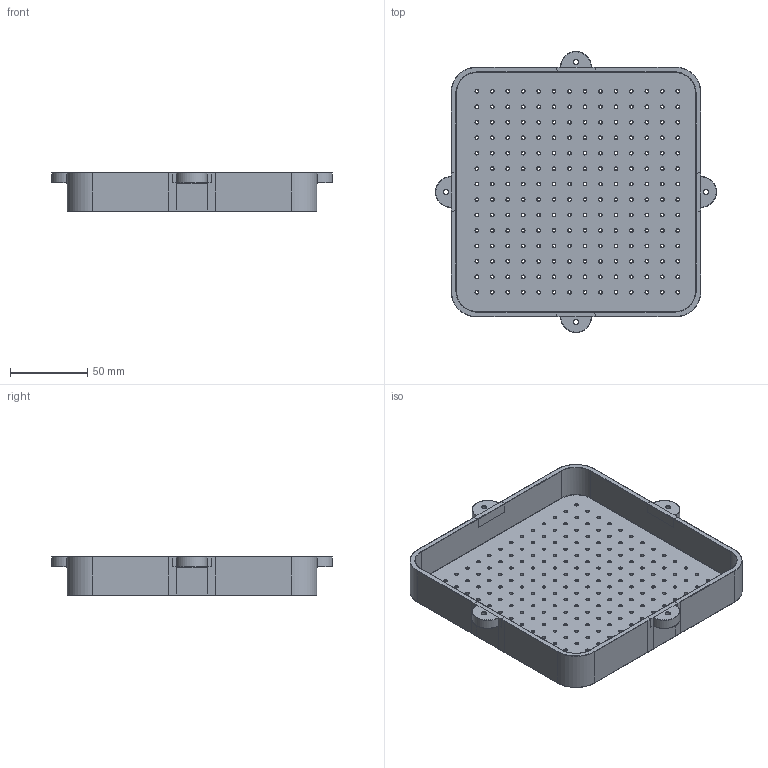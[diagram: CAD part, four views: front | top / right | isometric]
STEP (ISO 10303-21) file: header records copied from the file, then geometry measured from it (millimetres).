
FILE_DESCRIPTION(/* description */ (''),/* implementation_level */ '2;1');
FILE_NAME(/* name */ '水槽',/* time_stamp */ '2015-07-05T20:08:32+08:00',/* author */ (''),/* organization */ (''),/* preprocessor_version */ 'ST-DEVELOPER v15',/* originating_system */ '',/* authorisation */ '');
FILE_SCHEMA (('AUTOMOTIVE_DESIGN'));
Length unit declared in the file: millimetre
Products named in the file (1): Document
Bounding box: 181.66 x 181.66 x 25 mm (x, y, z)
Surface area: 84369.7 mm2 (no closed solid volume)
Topology: 0 solids, 1 shells, 1362 faces, 3616 edges, 2240 vertices
Faces by surface type: bspline 1344, plane 18
Entity records: 65883 total; most frequent: CARTESIAN_POINT 47813, ORIENTED_EDGE 7152, EDGE_CURVE 3616, VERTEX_POINT 2240, EDGE_LOOP 1762, ADVANCED_FACE 1362, FACE_OUTER_BOUND 1362, FACE_BOUND 400
